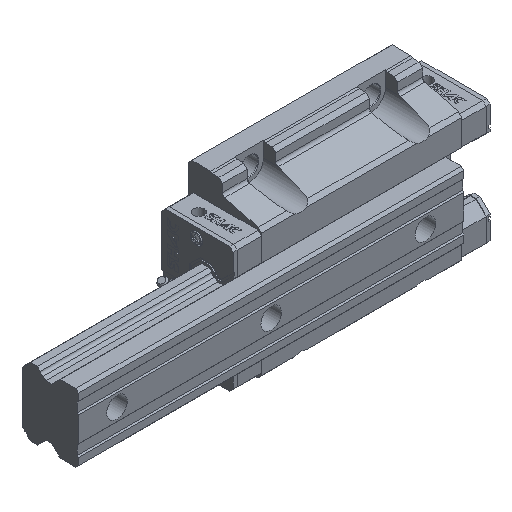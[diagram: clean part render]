
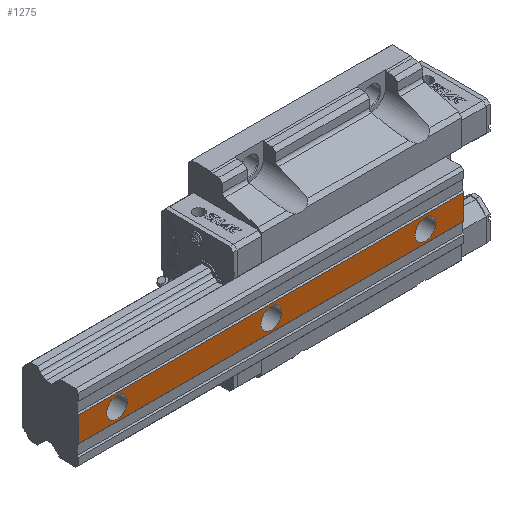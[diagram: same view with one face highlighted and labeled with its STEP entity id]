
A CAD part, isometric view. The second image highlights one B-rep face of the part: STEP entity #1275.
In plain terms, the highlighted planar face has unit normal (0, -1, 0).
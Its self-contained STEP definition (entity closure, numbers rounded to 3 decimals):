
#1275 = ADVANCED_FACE( '', ( #2715, #2716, #2717, #2718 ), #2719, .F. );
#2715 = FACE_BOUND( '', #4422, .T. );
#2716 = FACE_BOUND( '', #4423, .T. );
#2717 = FACE_BOUND( '', #4424, .T. );
#2718 = FACE_OUTER_BOUND( '', #4425, .T. );
#2719 = PLANE( '', #4426 );
#4422 = EDGE_LOOP( '', ( #7735 ) );
#4423 = EDGE_LOOP( '', ( #7736 ) );
#4424 = EDGE_LOOP( '', ( #7737 ) );
#4425 = EDGE_LOOP( '', ( #7738, #7739, #7740, #7741 ) );
#4426 = AXIS2_PLACEMENT_3D( '', #7742, #7743, #7744 );
#7735 = ORIENTED_EDGE( '', *, *, #10056, .F. );
#7736 = ORIENTED_EDGE( '', *, *, #11274, .F. );
#7737 = ORIENTED_EDGE( '', *, *, #11129, .F. );
#7738 = ORIENTED_EDGE( '', *, *, #10979, .F. );
#7739 = ORIENTED_EDGE( '', *, *, #10598, .F. );
#7740 = ORIENTED_EDGE( '', *, *, #10440, .T. );
#7741 = ORIENTED_EDGE( '', *, *, #10397, .T. );
#7742 = CARTESIAN_POINT( '', ( 150., 0., 24.5 ) );
#7743 = DIRECTION( '', ( 0., 1., 0. ) );
#7744 = DIRECTION( '', ( 0., 0., 1. ) );
#10056 = EDGE_CURVE( '', #11981, #11981, #11982, .T. );
#10397 = EDGE_CURVE( '', #12589, #12587, #12590, .T. );
#10440 = EDGE_CURVE( '', #12664, #12589, #12665, .T. );
#10598 = EDGE_CURVE( '', #12664, #12923, #12924, .T. );
#10979 = EDGE_CURVE( '', #12923, #12587, #13510, .T. );
#11129 = EDGE_CURVE( '', #13725, #13725, #13726, .T. );
#11274 = EDGE_CURVE( '', #13926, #13926, #13927, .T. );
#11981 = VERTEX_POINT( '', #14806 );
#11982 = CIRCLE( '', #14807, 8. );
#12587 = VERTEX_POINT( '', #15734 );
#12589 = VERTEX_POINT( '', #15737 );
#12590 = LINE( '', #15738, #15739 );
#12664 = VERTEX_POINT( '', #15853 );
#12665 = LINE( '', #15854, #15855 );
#12923 = VERTEX_POINT( '', #16228 );
#12924 = LINE( '', #16229, #16230 );
#13510 = LINE( '', #17080, #17081 );
#13725 = VERTEX_POINT( '', #17395 );
#13726 = CIRCLE( '', #17396, 8. );
#13926 = VERTEX_POINT( '', #17683 );
#13927 = CIRCLE( '', #17684, 8. );
#14806 = CARTESIAN_POINT( '', ( 0., 0., -8. ) );
#14807 = AXIS2_PLACEMENT_3D( '', #18735, #18736, #18737 );
#15734 = CARTESIAN_POINT( '', ( -150., 0., -9.75 ) );
#15737 = CARTESIAN_POINT( '', ( -150., 0., 9.75 ) );
#15738 = CARTESIAN_POINT( '', ( -150., 0., 24.5 ) );
#15739 = VECTOR( '', #19101, 1000. );
#15853 = CARTESIAN_POINT( '', ( 150., 0., 9.75 ) );
#15854 = CARTESIAN_POINT( '', ( 150., 0., 9.75 ) );
#15855 = VECTOR( '', #19147, 1000. );
#16228 = CARTESIAN_POINT( '', ( 150., 0., -9.75 ) );
#16229 = CARTESIAN_POINT( '', ( 150., 0., 24.5 ) );
#16230 = VECTOR( '', #19319, 1000. );
#17080 = CARTESIAN_POINT( '', ( 150., 0., -9.75 ) );
#17081 = VECTOR( '', #19689, 1000. );
#17395 = CARTESIAN_POINT( '', ( -120., 0., -8. ) );
#17396 = AXIS2_PLACEMENT_3D( '', #19825, #19826, #19827 );
#17683 = CARTESIAN_POINT( '', ( 120., 0., -8. ) );
#17684 = AXIS2_PLACEMENT_3D( '', #19977, #19978, #19979 );
#18735 = CARTESIAN_POINT( '', ( 0., 0., 0. ) );
#18736 = DIRECTION( '', ( 0., -1., 0. ) );
#18737 = DIRECTION( '', ( 0., 0., -1. ) );
#19101 = DIRECTION( '', ( 0., 0., -1. ) );
#19147 = DIRECTION( '', ( -1., 0., 0. ) );
#19319 = DIRECTION( '', ( 0., 0., -1. ) );
#19689 = DIRECTION( '', ( -1., 0., 0. ) );
#19825 = CARTESIAN_POINT( '', ( -120., 0., 0. ) );
#19826 = DIRECTION( '', ( 0., -1., 0. ) );
#19827 = DIRECTION( '', ( 0., 0., -1. ) );
#19977 = CARTESIAN_POINT( '', ( 120., 0., 0. ) );
#19978 = DIRECTION( '', ( 0., -1., 0. ) );
#19979 = DIRECTION( '', ( 0., 0., -1. ) );
